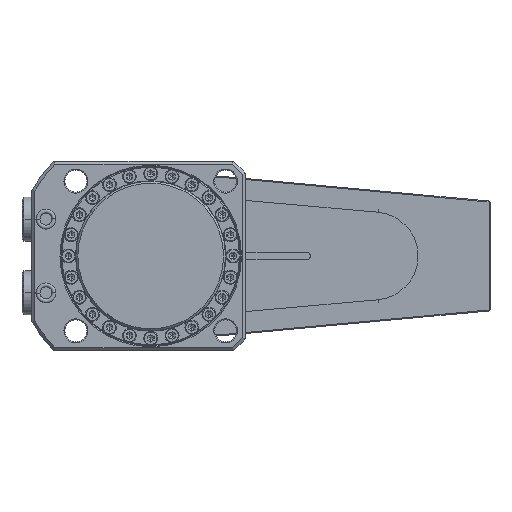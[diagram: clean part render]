
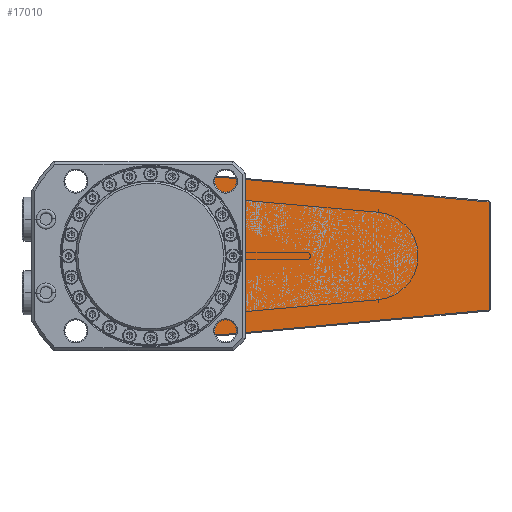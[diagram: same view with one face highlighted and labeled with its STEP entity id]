
A CAD part, front view. The second image highlights one B-rep face of the part: STEP entity #17010.
In plain terms, the highlighted planar face has unit normal (0, -1, 0).
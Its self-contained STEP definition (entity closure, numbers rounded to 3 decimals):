
#13939=DIRECTION('',(1.,0.,0.));
#13940=VECTOR('',#13939,26.358);
#13941=CARTESIAN_POINT('',(-49.5,-21.5,2.));
#13942=LINE('',#13941,#13940);
#13943=DIRECTION('',(0.,0.,-1.));
#13944=VECTOR('',#13943,24.);
#13945=CARTESIAN_POINT('',(-49.5,-21.5,26.));
#13946=LINE('',#13945,#13944);
#13947=DIRECTION('',(-0.707,0.,-0.707));
#13948=VECTOR('',#13947,1.414);
#13949=CARTESIAN_POINT('',(-48.5,-21.5,27.));
#13950=LINE('',#13949,#13948);
#13951=DIRECTION('',(-1.,0.,0.));
#13952=VECTOR('',#13951,44.);
#13953=CARTESIAN_POINT('',(-4.5,-21.5,27.));
#13954=LINE('',#13953,#13952);
#13955=DIRECTION('',(0.,0.,-1.));
#13956=VECTOR('',#13955,12.5);
#13957=CARTESIAN_POINT('',(-4.5,-21.5,39.5));
#13958=LINE('',#13957,#13956);
#13959=DIRECTION('',(-1.,0.,0.));
#13960=VECTOR('',#13959,39.477);
#13961=CARTESIAN_POINT('',(34.977,-21.5,39.5));
#13962=LINE('',#13961,#13960);
#13963=DIRECTION('',(-0.996,0.,0.092));
#13964=VECTOR('',#13963,135.099);
#13965=CARTESIAN_POINT('',(169.5,-21.5,27.044));
#13966=LINE('',#13965,#13964);
#13967=DIRECTION('',(0.,0.,1.));
#13968=VECTOR('',#13967,54.088);
#13969=CARTESIAN_POINT('',(169.5,-21.5,-27.044));
#13970=LINE('',#13969,#13968);
#13971=DIRECTION('',(0.996,0.,0.092));
#13972=VECTOR('',#13971,135.099);
#13973=CARTESIAN_POINT('',(34.977,-21.5,-39.5));
#13974=LINE('',#13973,#13972);
#13975=DIRECTION('',(1.,0.,0.));
#13976=VECTOR('',#13975,39.477);
#13977=CARTESIAN_POINT('',(-4.5,-21.5,-39.5));
#13978=LINE('',#13977,#13976);
#13979=DIRECTION('',(0.,0.,-1.));
#13980=VECTOR('',#13979,12.5);
#13981=CARTESIAN_POINT('',(-4.5,-21.5,-27.));
#13982=LINE('',#13981,#13980);
#13983=DIRECTION('',(1.,0.,0.));
#13984=VECTOR('',#13983,44.);
#13985=CARTESIAN_POINT('',(-48.5,-21.5,-27.));
#13986=LINE('',#13985,#13984);
#13987=DIRECTION('',(0.707,0.,-0.707));
#13988=VECTOR('',#13987,1.414);
#13989=CARTESIAN_POINT('',(-49.5,-21.5,-26.));
#13990=LINE('',#13989,#13988);
#13991=DIRECTION('',(0.,0.,-1.));
#13992=VECTOR('',#13991,24.);
#13993=CARTESIAN_POINT('',(-49.5,-21.5,-2.));
#13994=LINE('',#13993,#13992);
#13995=DIRECTION('',(1.,0.,0.));
#13996=VECTOR('',#13995,26.358);
#13997=CARTESIAN_POINT('',(-49.5,-21.5,-2.));
#13998=LINE('',#13997,#13996);
#14004=CARTESIAN_POINT('',(0.001,-21.5,0.));
#14005=DIRECTION('',(0.,1.,0.));
#14006=DIRECTION('',(-0.996,0.,0.086));
#14007=AXIS2_PLACEMENT_3D('',#14004,#14005,#14006);
#14115=CARTESIAN_POINT('',(-23.142,-21.5,
-2.));
#14295=CARTESIAN_POINT('',(-23.142,-21.5,
2.));
#16687=CARTESIAN_POINT('',(-48.5,-21.5,27.));
#16689=VERTEX_POINT('',#16687);
#16693=CARTESIAN_POINT('',(-4.5,-21.5,27.));
#16694=VERTEX_POINT('',#16693);
#16699=CARTESIAN_POINT('',(169.5,-21.5,-27.044));
#16700=CARTESIAN_POINT('',(169.5,-21.5,27.044));
#16701=VERTEX_POINT('',#16699);
#16702=VERTEX_POINT('',#16700);
#16712=CARTESIAN_POINT('',(-48.5,-21.5,-27.));
#16714=VERTEX_POINT('',#16712);
#16715=CARTESIAN_POINT('',(-4.5,-21.5,-27.));
#16716=VERTEX_POINT('',#16715);
#16735=CARTESIAN_POINT('',(-49.5,-21.5,-26.));
#16737=VERTEX_POINT('',#16735);
#16741=CARTESIAN_POINT('',(-49.5,-21.5,-2.));
#16742=VERTEX_POINT('',#16741);
#16743=CARTESIAN_POINT('',(-49.5,-21.5,2.));
#16745=VERTEX_POINT('',#16743);
#16749=CARTESIAN_POINT('',(-49.5,-21.5,26.));
#16750=VERTEX_POINT('',#16749);
#16752=VERTEX_POINT('',#14295);
#16753=VERTEX_POINT('',#14115);
#16799=CARTESIAN_POINT('',(-4.5,-21.5,-39.5));
#16800=VERTEX_POINT('',#16799);
#16801=CARTESIAN_POINT('',(34.977,-21.5,-39.5));
#16802=VERTEX_POINT('',#16801);
#16827=CARTESIAN_POINT('',(34.977,-21.5,39.5));
#16828=VERTEX_POINT('',#16827);
#16829=CARTESIAN_POINT('',(-4.5,-21.5,39.5));
#16830=VERTEX_POINT('',#16829);
#16971=CARTESIAN_POINT('',(0.,-21.5,0.));
#16972=DIRECTION('',(0.,1.,0.));
#16973=DIRECTION('',(1.,0.,0.));
#16974=AXIS2_PLACEMENT_3D('',#16971,#16972,#16973);
#16975=PLANE('',#16974);
#16977=ORIENTED_EDGE('',*,*,#16976,.F.);
#16979=ORIENTED_EDGE('',*,*,#16978,.F.);
#16981=ORIENTED_EDGE('',*,*,#16980,.F.);
#16983=ORIENTED_EDGE('',*,*,#16982,.F.);
#16985=ORIENTED_EDGE('',*,*,#16984,.F.);
#16987=ORIENTED_EDGE('',*,*,#16986,.F.);
#16989=ORIENTED_EDGE('',*,*,#16988,.F.);
#16991=ORIENTED_EDGE('',*,*,#16990,.F.);
#16993=ORIENTED_EDGE('',*,*,#16992,.F.);
#16995=ORIENTED_EDGE('',*,*,#16994,.F.);
#16997=ORIENTED_EDGE('',*,*,#16996,.F.);
#16999=ORIENTED_EDGE('',*,*,#16998,.F.);
#17001=ORIENTED_EDGE('',*,*,#17000,.F.);
#17003=ORIENTED_EDGE('',*,*,#17002,.F.);
#17005=ORIENTED_EDGE('',*,*,#17004,.F.);
#17007=ORIENTED_EDGE('',*,*,#17006,.T.);
#17008=EDGE_LOOP('',(#16977,#16979,#16981,#16983,#16985,#16987,#16989,#16991,
#16993,#16995,#16997,#16999,#17001,#17003,#17005,#17007));
#17009=FACE_OUTER_BOUND('',#17008,.F.);
#17010=ADVANCED_FACE('',(#17009),#16975,.F.);
#14008=CIRCLE('',#14007,23.229);
#16976=EDGE_CURVE('',#16752,#16753,#14008,.T.);
#16978=EDGE_CURVE('',#16745,#16752,#13942,.T.);
#16980=EDGE_CURVE('',#16750,#16745,#13946,.T.);
#16982=EDGE_CURVE('',#16689,#16750,#13950,.T.);
#16984=EDGE_CURVE('',#16694,#16689,#13954,.T.);
#16986=EDGE_CURVE('',#16830,#16694,#13958,.T.);
#16988=EDGE_CURVE('',#16828,#16830,#13962,.T.);
#16990=EDGE_CURVE('',#16702,#16828,#13966,.T.);
#16992=EDGE_CURVE('',#16701,#16702,#13970,.T.);
#16994=EDGE_CURVE('',#16802,#16701,#13974,.T.);
#16996=EDGE_CURVE('',#16800,#16802,#13978,.T.);
#16998=EDGE_CURVE('',#16716,#16800,#13982,.T.);
#17000=EDGE_CURVE('',#16714,#16716,#13986,.T.);
#17002=EDGE_CURVE('',#16737,#16714,#13990,.T.);
#17004=EDGE_CURVE('',#16742,#16737,#13994,.T.);
#17006=EDGE_CURVE('',#16742,#16753,#13998,.T.);
